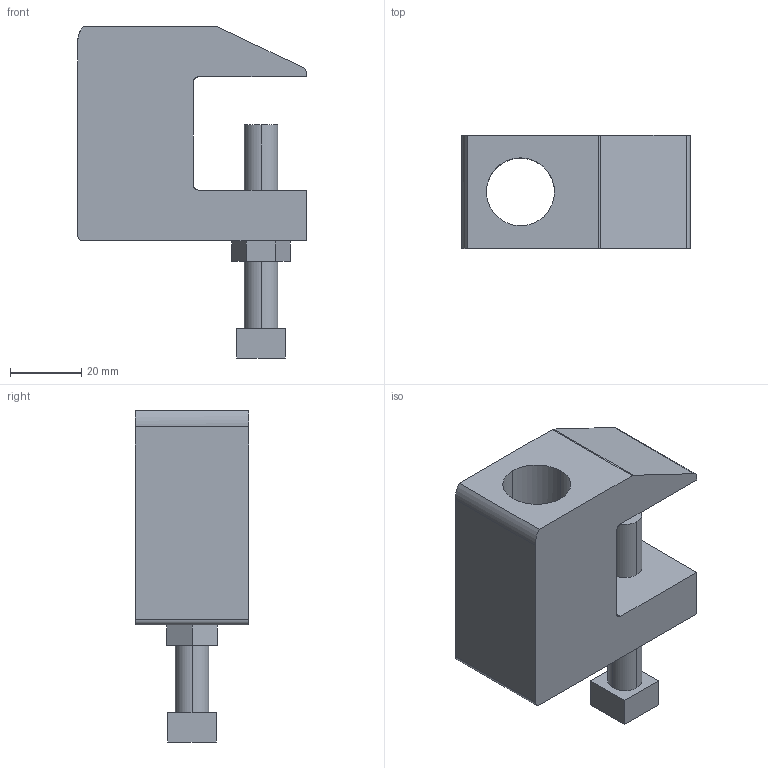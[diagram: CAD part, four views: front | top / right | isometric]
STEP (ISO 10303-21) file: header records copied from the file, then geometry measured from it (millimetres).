
FILE_DESCRIPTION(('TurboCAD Mac Pro'),'Build 980');
FILE_NAME('P2899-75.stp',' ',(''),(''),'ACIS Interop','IMSI','TurboCAD Mac Pro BY IMSI, INCORPORATED');
FILE_SCHEMA(('automotive_design'));
Length unit declared in the file: inch
Products named in the file (3): 1; 2; 3
Bounding box: 64.12 x 31.75 x 93.17 mm (x, y, z)
Volume: 73854.2 mm3; surface area: 21431.9 mm2
Topology: 3 solids, 3 shells, 48 faces, 123 edges, 82 vertices
Faces by surface type: plane 26, bspline 21, cylinder 1
Entity records: 2021 total; most frequent: CARTESIAN_POINT 526, ORIENTED_EDGE 246, DIRECTION 145, EDGE_CURVE 123, VERTEX_POINT 82, LINE 79, VECTOR 79, EDGE_LOOP 55
